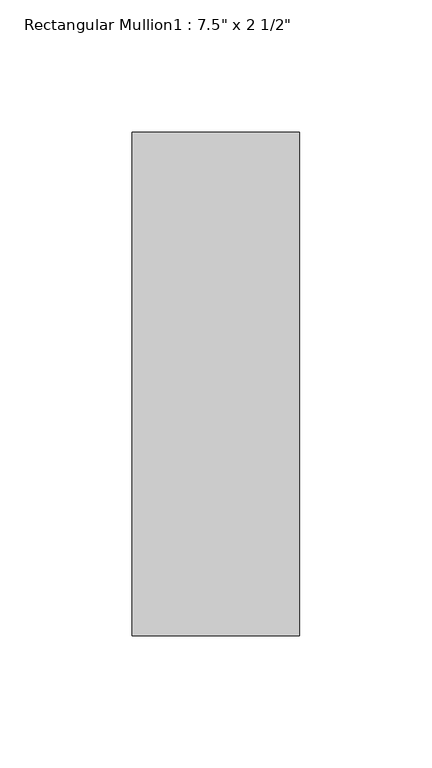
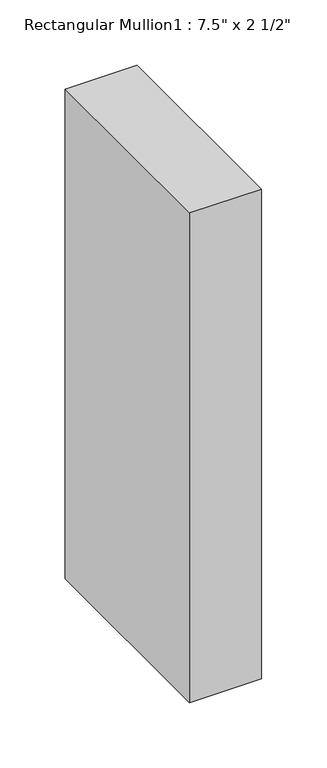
"""IFC4 building model written with IfcOpenShell, lengths in millimetres: member geometry."""

from ifc_helpers import new_model, si_unit, frame, origin, place, context, project, spatial, polyline, outline, extrude, source, transform, mapped, element, save


def member_939caa3f(model_context):
    return source(origin(), model_context, "Body", "SweptSolid", [
        extrude(outline(polyline([(-63.5, 165.1), (0.0, 165.1), (0.0, -25.4), (-63.5, -25.4), (-63.5, 165.1)])), frame((0.0, 0.0, -457.2), z_axis=(0.0, 0.0, 1.0), x_axis=(1.0, 0.0, 0.0)), (0.0, 0.0, 1.0), 457.2),
    ])


if __name__ == "__main__":
    model = new_model("IFC4")
    model_context = context("Model", 3, world=origin())
    ifc_project = project(units=[si_unit("LENGTHUNIT", "METRE", prefix="MILLI")], contexts=[model_context])
    site = spatial("IfcSite", under=ifc_project)
    building = spatial("IfcBuilding", under=site)
    placement = place(None, origin())
    member_shape = member_939caa3f(model_context)
    element("IfcMember", 1, ObjectType="Rectangular Mullion1 : 7.5\" x 2 1/2\"", at=placement, inside=building, context=model_context, shape_type="MappedRepresentation", body=[
        mapped(member_shape, transform((0.0, 0.0, 0.0), x_axis=(1.0, 0.0, 0.0), y_axis=(0.0, 1.0, 0.0), z_axis=(0.0, 0.0, 1.0))),
    ])
    save(model, "model.ifc")
